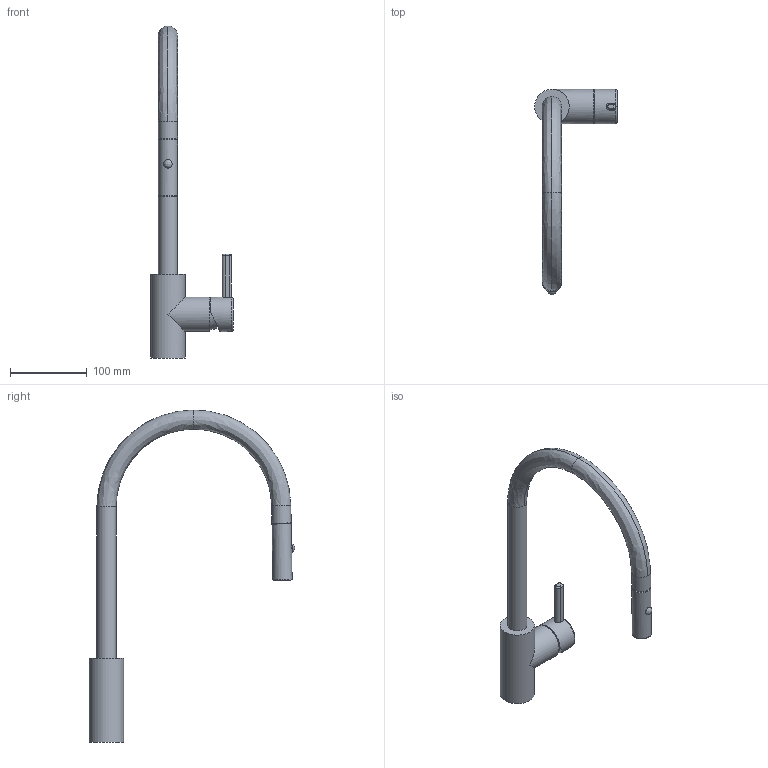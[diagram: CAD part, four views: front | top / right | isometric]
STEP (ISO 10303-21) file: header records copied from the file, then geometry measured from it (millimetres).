
FILE_DESCRIPTION(/* description */ (''),/* implementation_level */ '2;1');
FILE_NAME(/* name */ '3D001_Taps_Eos-Neo_Pull-Down',/* time_stamp */ '2024-01-30T14:17:21+01:00',/* author */ (''),/* organization */ (''),/* preprocessor_version */ 'ST-DEVELOPER v19.2',/* originating_system */ 'Rhino 8.3',/* authorisation */ '');
FILE_SCHEMA (('CONFIG_CONTROL_DESIGN'));
Length unit declared in the file: millimetre
Products named in the file (2): Document; LOGO_CALDO_FREDDO
Bounding box: 107.74 x 268.15 x 433 mm (x, y, z)
Volume: 601067.6 mm3; surface area: 83260.8 mm2
Topology: 9 solids, 9 shells, 201 faces, 536 edges, 356 vertices
Faces by surface type: plane 172, bspline 16, cylinder 13
Full cylindrical faces by diameter (mm): 3 x1, 25 x3, 45 x3
Entity records: 6874 total; most frequent: CARTESIAN_POINT 2779, ORIENTED_EDGE 1068, EDGE_CURVE 534, B_SPLINE_CURVE_WITH_KNOTS 468, VERTEX_POINT 356, DIRECTION 305, AXIS2_PLACEMENT_3D 245, EDGE_LOOP 218
